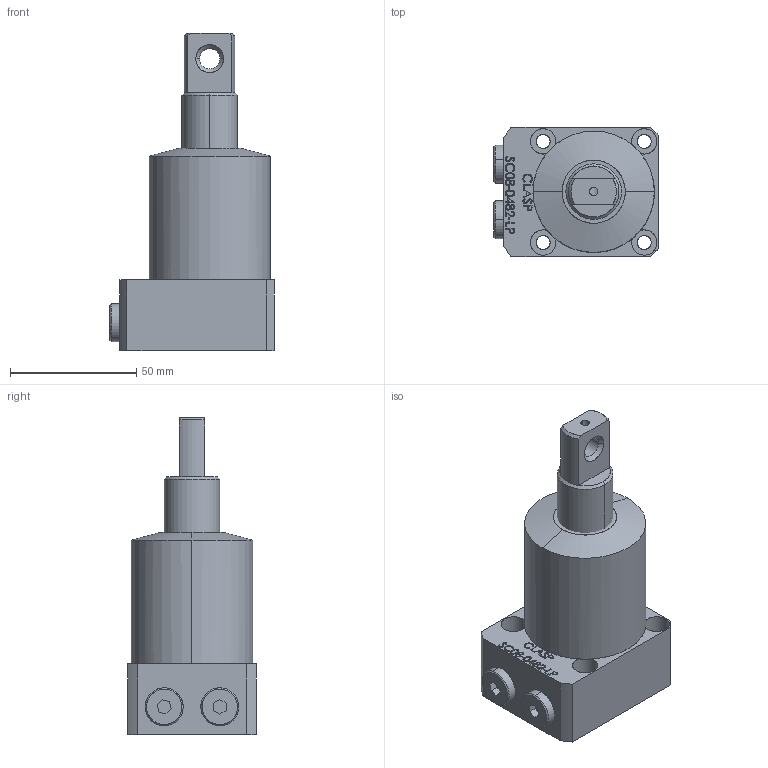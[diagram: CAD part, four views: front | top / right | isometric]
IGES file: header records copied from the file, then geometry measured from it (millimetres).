
Start section: SolidWorks IGES file using analytic representation for surfaces
Global section: file name: D:\karuppas\Clasp\3D model\SWING CYLINDER\Bottom Mounting swing cylinder-P type\SC08-0482-LP\SC08-0482-LP.IGS; native system: SolidWorks 2017; preprocessor: SolidWorks 2017; author: pc; date: 220708.223138; units: millimetre
Bounding box: 65 x 51 x 125.5 mm (x, y, z)
Surface area: 30741.1 mm2 (no closed solid volume)
Topology: 0 solids, 0 shells, 337 faces, 5304 edges, 5304 vertices
Faces by surface type: bspline 269, revolution 68
